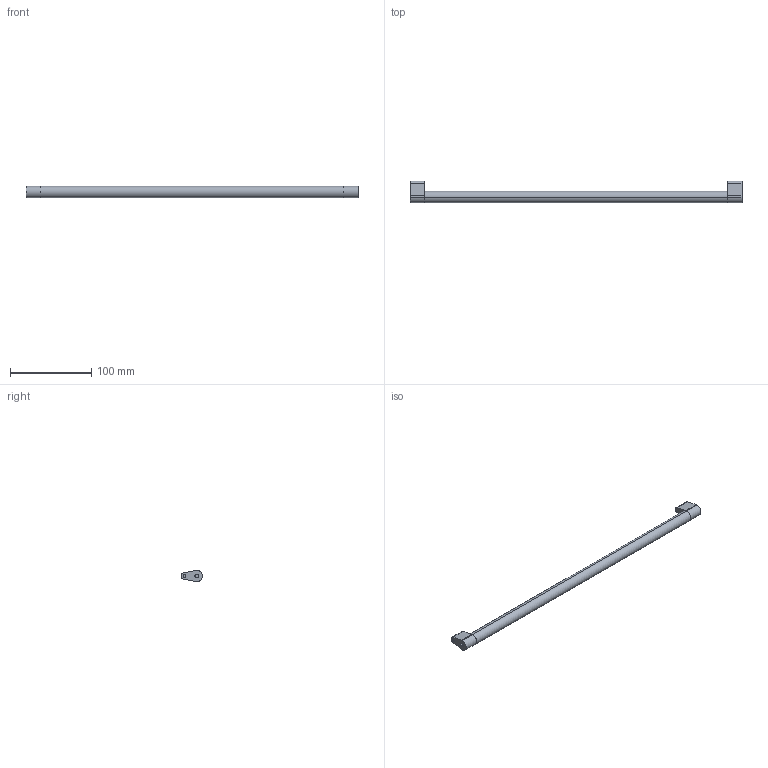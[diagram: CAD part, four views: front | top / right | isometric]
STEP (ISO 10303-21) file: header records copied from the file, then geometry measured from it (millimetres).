
FILE_DESCRIPTION (( 'STEP AP214' ), '1' );
FILE_NAME ('_Synchronisationseinheit Nova Pro KAB500_S19.step', '2010-07-08T13:58:42', ( 'grass' ), ( '' ), 'SwSTEP 2.0', 'SolidWorks 2010', '' );
FILE_SCHEMA (( 'AUTOMOTIVE_DESIGN' ));
Length unit declared in the file: millimetre
Products named in the file (1): _Synchronisationseinheit Nova Pro KAB500_S19
Bounding box: 409 x 26.5 x 14 mm (x, y, z)
Volume: 66647.5 mm3; surface area: 20835.7 mm2
Topology: 3 solids, 3 shells, 36 faces, 78 edges, 52 vertices
Faces by surface type: cylinder 18, plane 18
Entity records: 1050 total; most frequent: DIRECTION 188, CARTESIAN_POINT 167, ORIENTED_EDGE 156, EDGE_CURVE 78, AXIS2_PLACEMENT_3D 73, VERTEX_POINT 52, VECTOR 42, LINE 42
